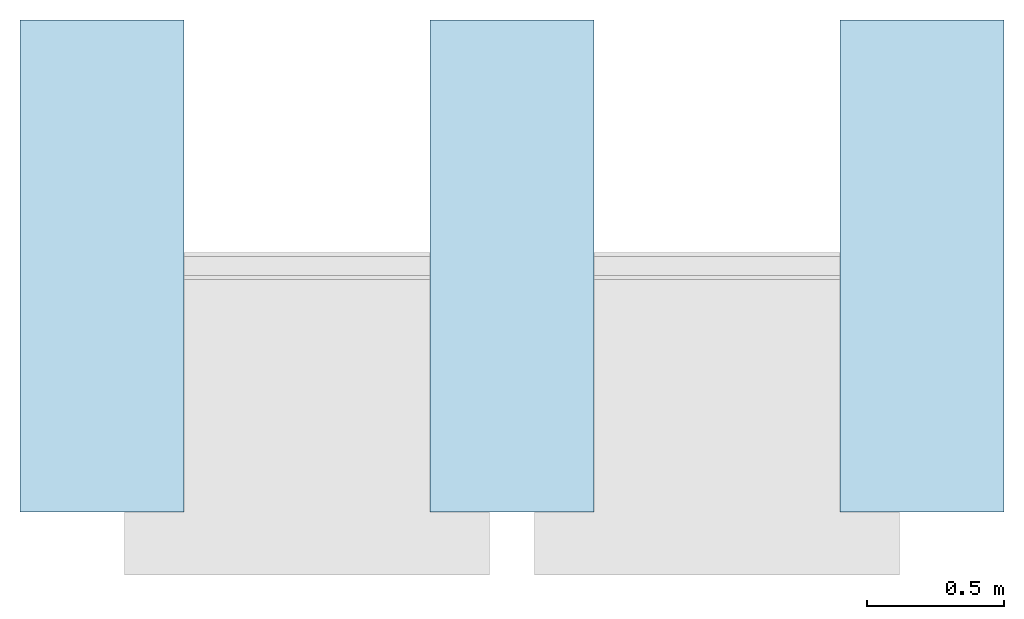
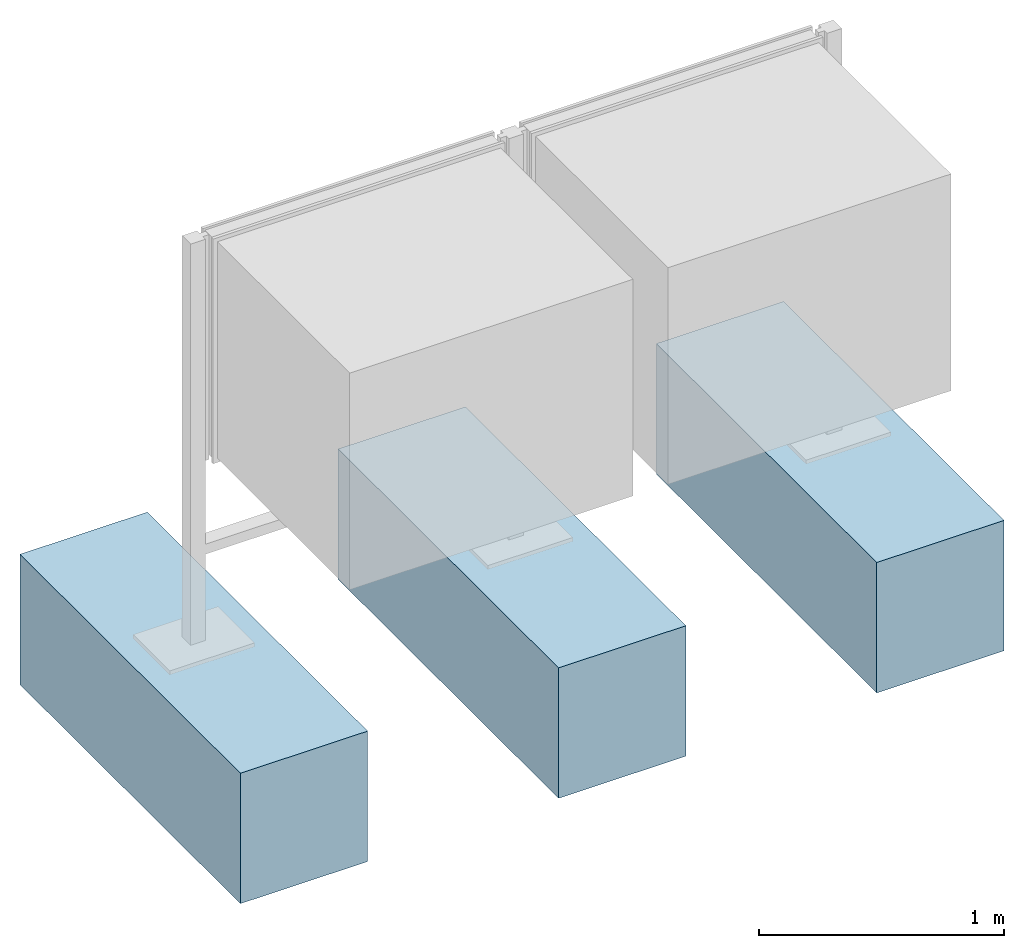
# One storey, incomplete: 3 slabs.
"""IFC4 building model written with IfcOpenShell, lengths in metres."""

from ifc_helpers import new_model, entity, si_unit, converted_unit, direction, frame, frame_2d, origin, origin_2d_with_axis, place, context, subcontext, project, spatial, rectangle, extrude, material, type_object, element, save


model = new_model("IFC4")

# Units and contexts
model_context = context("Model", 3, precision=1e-05, world=origin(), true_north=direction((6.123031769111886e-17, 1.0)))
body_context = subcontext(model_context, "Body", "Model", "MODEL_VIEW")
ifc_project = project(units=[si_unit("LENGTHUNIT", "METRE"), converted_unit("PLANEANGLEUNIT", "DEGREE", entity("IfcPlaneAngleMeasure", 0.017453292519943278), si_unit("PLANEANGLEUNIT", "RADIAN"), dimensions=[0, 0, 0, 0, 0, 0, 0]), si_unit("AREAUNIT", "SQUARE_METRE")], contexts=[model_context])

# Site, building, storey
site_placement = place(None, origin())
site = spatial("IfcSite", under=ifc_project, at=site_placement, Name="Default", CompositionType="ELEMENT")
building_placement = place(site_placement, origin())
building = spatial("IfcBuilding", under=site, at=building_placement, CompositionType="ELEMENT")
storey_placement = place(building_placement, origin())
storey = spatial("IfcBuildingStorey", under=building, at=storey_placement, Name="DB_Bezugshoehe_max_Bahnsteigkante", CompositionType="ELEMENT", Elevation=0.0)

# Slabs
ifc_material = material(Name="DB_Ortbeton", Category="DB_Beton")
slab_type = type_object("IfcSlabType", Name="DB_Vitrine_Fundament:DB_Vitrine_Fundament", PredefinedType="BASESLAB", material=ifc_material)
slab_1_placement = place(storey_placement, origin())
element("IfcSlab", 1, at=slab_1_placement, inside=storey, type_object=slab_type, Name="DB_Vitrine_Fundament:DB_Vitrine_Fundament", ObjectType="DB_Vitrine_Fundament:DB_Vitrine_Fundament", PredefinedType="BASESLAB", context=body_context, shape_type="SweptSolid", body=[
    extrude(rectangle(XDim=1.8, YDim=0.5999999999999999, at=origin_2d_with_axis()), frame((0.0, 0.0, 0.04999999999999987), z_axis=(0.0, 0.0, 1.0), x_axis=(0.0, 1.0, 0.0)), (0.0, 0.0, 1.0), 0.5999999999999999),
    extrude(rectangle(XDim=0.5999999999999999, YDim=1.7999999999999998, at=origin_2d_with_axis()), frame((0.0, 0.0, 0.0), z_axis=(0.0, 0.0, 1.0), x_axis=(-1.0, 0.0, 0.0)), (0.0, 0.0, 1.0), 0.04999999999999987),
])
slab_2_placement = place(storey_placement, origin())
element("IfcSlab", 2, at=slab_2_placement, inside=storey, type_object=slab_type, Name="DB_Vitrine_Fundament:DB_Vitrine_Fundament", ObjectType="DB_Vitrine_Fundament:DB_Vitrine_Fundament", PredefinedType="BASESLAB", context=body_context, shape_type="SweptSolid", body=[
    extrude(rectangle(XDim=1.8, YDim=0.5999999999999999, at=frame_2d((0.0, -8.326672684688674e-17), x_axis=(1.0, 0.0))), frame((1.5000000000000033, 0.0, 0.04999999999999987), z_axis=(0.0, 0.0, 1.0), x_axis=(0.0, 1.0, 0.0)), (0.0, 0.0, 1.0), 0.5999999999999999),
    extrude(rectangle(XDim=0.6000000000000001, YDim=1.7999999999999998, at=origin_2d_with_axis()), frame((1.5000000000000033, 0.0, 0.0), z_axis=(0.0, 0.0, 1.0), x_axis=(-1.0, 0.0, 0.0)), (0.0, 0.0, 1.0), 0.04999999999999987),
])
slab_3_placement = place(storey_placement, origin())
element("IfcSlab", 3, at=slab_3_placement, inside=storey, type_object=slab_type, Name="DB_Vitrine_Fundament:DB_Vitrine_Fundament", ObjectType="DB_Vitrine_Fundament:DB_Vitrine_Fundament", PredefinedType="BASESLAB", context=body_context, shape_type="SweptSolid", body=[
    extrude(rectangle(XDim=1.8, YDim=0.6000000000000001, at=origin_2d_with_axis()), frame((3.0, 0.0, 0.04999999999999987), z_axis=(0.0, 0.0, 1.0), x_axis=(0.0, 1.0, 0.0)), (0.0, 0.0, 1.0), 0.5999999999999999),
    extrude(rectangle(XDim=0.6000000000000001, YDim=1.7999999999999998, at=origin_2d_with_axis()), frame((3.0, 0.0, 0.0), z_axis=(0.0, 0.0, 1.0), x_axis=(-1.0, 0.0, 0.0)), (0.0, 0.0, 1.0), 0.04999999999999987),
])

save(model, "model.ifc")
